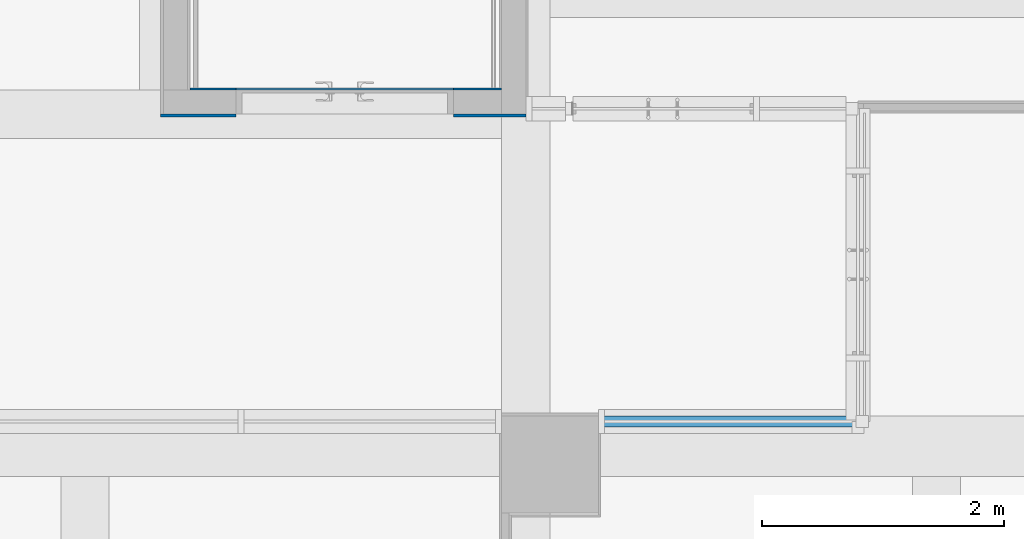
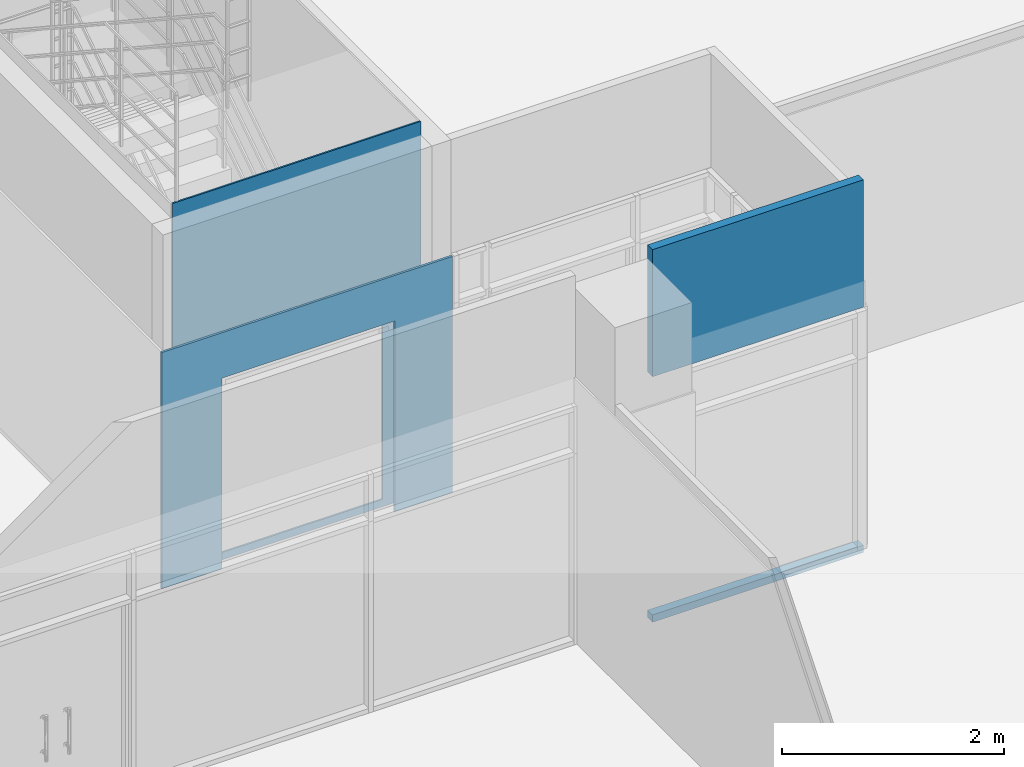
# One storey, part 46 of 81: 3 walls, 3 openings.
"""IFC2X3 building model written with IfcOpenShell, lengths in millimetres."""

from ifc_helpers import new_model, entity, si_unit, converted_unit, derived_unit, direction, frame, frame_2d, origin, place, context, subcontext, project, spatial, rectangle, extrude, material, layer, layer_set, layer_usage, type_object, element, save


model = new_model("IFC2X3")

# Units and contexts
model_context = context("Model", 3, precision=0.01, world=origin(), true_north=direction((6.123031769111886e-17, 1.0)))
body_context = subcontext(model_context, "Body", "Model", "MODEL_VIEW")
ifc_project = project(units=[si_unit("LENGTHUNIT", "METRE", prefix="MILLI"), si_unit("AREAUNIT", "SQUARE_METRE"), si_unit("VOLUMEUNIT", "CUBIC_METRE"), converted_unit("PLANEANGLEUNIT", "DEGREE", entity("IfcRatioMeasure", 0.017453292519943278), si_unit("PLANEANGLEUNIT", "RADIAN"), dimensions=[0, 0, 0, 0, 0, 0, 0]), si_unit("MASSUNIT", "GRAM", prefix="KILO"), derived_unit("MASSDENSITYUNIT", [(si_unit("MASSUNIT", "GRAM", prefix="KILO"), 1), (si_unit("LENGTHUNIT", "METRE"), -3)]), derived_unit("MOMENTOFINERTIAUNIT", [(si_unit("LENGTHUNIT", "METRE"), 4)]), si_unit("TIMEUNIT", "SECOND"), si_unit("FREQUENCYUNIT", "HERTZ"), si_unit("THERMODYNAMICTEMPERATUREUNIT", "DEGREE_CELSIUS"), derived_unit("THERMALTRANSMITTANCEUNIT", [(si_unit("MASSUNIT", "GRAM", prefix="KILO"), 1), (si_unit("THERMODYNAMICTEMPERATUREUNIT", "KELVIN"), -1), (si_unit("TIMEUNIT", "SECOND"), -3)]), derived_unit("VOLUMETRICFLOWRATEUNIT", [(si_unit("LENGTHUNIT", "METRE"), 3), (si_unit("TIMEUNIT", "SECOND"), -1)]), derived_unit("MASSFLOWRATEUNIT", [(si_unit("MASSUNIT", "GRAM", prefix="KILO"), 1), (si_unit("TIMEUNIT", "SECOND"), -1)]), derived_unit("ROTATIONALFREQUENCYUNIT", [(si_unit("TIMEUNIT", "SECOND"), -1)]), si_unit("ELECTRICCURRENTUNIT", "AMPERE"), si_unit("ELECTRICVOLTAGEUNIT", "VOLT"), si_unit("POWERUNIT", "WATT"), si_unit("FORCEUNIT", "NEWTON", prefix="KILO"), si_unit("ILLUMINANCEUNIT", "LUX"), si_unit("LUMINOUSFLUXUNIT", "LUMEN"), si_unit("LUMINOUSINTENSITYUNIT", "CANDELA"), derived_unit("USERDEFINED", [(si_unit("MASSUNIT", "GRAM", prefix="KILO"), -1), (si_unit("LENGTHUNIT", "METRE"), -2), (si_unit("TIMEUNIT", "SECOND"), 3), (si_unit("LUMINOUSFLUXUNIT", "LUMEN"), 1)]), derived_unit("SOUNDPOWERUNIT", [(si_unit("MASSUNIT", "GRAM", prefix="KILO"), 1), (si_unit("LENGTHUNIT", "METRE"), 2), (si_unit("TIMEUNIT", "SECOND"), -3)]), derived_unit("SOUNDPRESSUREUNIT", [(si_unit("MASSUNIT", "GRAM", prefix="KILO"), 1), (si_unit("LENGTHUNIT", "METRE"), -1), (si_unit("TIMEUNIT", "SECOND"), -2)]), derived_unit("LINEARVELOCITYUNIT", [(si_unit("LENGTHUNIT", "METRE"), 1), (si_unit("TIMEUNIT", "SECOND"), -1)]), si_unit("PRESSUREUNIT", "PASCAL"), derived_unit("USERDEFINED", [(si_unit("LENGTHUNIT", "METRE"), -2), (si_unit("MASSUNIT", "GRAM", prefix="KILO"), 1), (si_unit("TIMEUNIT", "SECOND"), -2)]), derived_unit("LINEARFORCEUNIT", [(si_unit("MASSUNIT", "GRAM", prefix="KILO"), 1), (si_unit("LENGTHUNIT", "METRE"), 1), (si_unit("TIMEUNIT", "SECOND"), -2), (si_unit("LENGTHUNIT", "METRE"), -1)]), derived_unit("PLANARFORCEUNIT", [(si_unit("MASSUNIT", "GRAM", prefix="KILO"), 1), (si_unit("LENGTHUNIT", "METRE"), 1), (si_unit("TIMEUNIT", "SECOND"), -2), (si_unit("LENGTHUNIT", "METRE"), -2)])], contexts=[model_context])

# Site, building, storey
site_placement = place(None, frame((-14167.972527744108, -657.2125860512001, 0.0)))
site = spatial("IfcSite", under=ifc_project, at=site_placement, Name="Default", CompositionType="ELEMENT")
building_placement = place(site_placement, origin())
building = spatial("IfcBuilding", under=site, at=building_placement, Name="Sample Building", CompositionType="ELEMENT")
storey_placement = place(building_placement, frame((0.0, 0.0, 13400.0)))
storey = spatial("IfcBuildingStorey", under=building, at=storey_placement, Name="지상 4층", CompositionType="ELEMENT", Elevation=13400.00000000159)

# Wall, opening
ifc_material_1 = material(Name="KBIMS-시멘트 벽돌")
ifc_layer_1 = layer(ifc_material_1, 90.0)
ifc_layer_set_1 = layer_set([ifc_layer_1], Name="기본 벽:WA211-시멘트벽돌(일반) 벽 (0.5B) 90mm")
ifc_layer_usage_1 = layer_usage(ifc_layer_set_1, "AXIS2", "POSITIVE", -45.0)
wall_type_1 = type_object("IfcWallType", Name="기본 벽:WA211-시멘트벽돌(일반) 벽 (0.5B) 90mm", PredefinedType="STANDARD", material=ifc_layer_set_1)
wall_1_placement = place(storey_placement, frame((41567.955135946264, 13012.212383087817, 0.0)))
wall_1 = element("IfcWallStandardCase", 1, at=wall_1_placement, inside=storey, type_object=wall_type_1, material=ifc_layer_usage_1, Name="기본 벽:WA211-시멘트벽돌(일반) 벽 (0.5B) 90mm", ObjectType="기본 벽:WA211-시멘트벽돌(일반) 벽 (0.5B) 90mm", context=body_context, shape_type="SweptSolid", body=[
    extrude(rectangle(XDim=2195.0173551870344, YDim=89.99999999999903, at=frame_2d((1097.5086775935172, 9.627854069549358e-13), x_axis=(-1.0, 0.0))), origin(), (0.0, 0.0, 1.0), 4100.0000000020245),
])
opening_1_placement = place(wall_1_placement, origin())
element("IfcOpeningElement", 2, at=opening_1_placement, cuts=wall_1, Name="기본 벽:WA211-시멘트벽돌(일반) 벽 (0.5B) 90mm", ObjectType="Opening", context=body_context, shape_type="SweptSolid", body=[
    extrude(rectangle(XDim=2619.9999999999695, YDim=2235.000000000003, at=frame_2d((1.1368683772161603e-12, 4.320099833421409e-12), x_axis=(1.0, 0.0))), frame((1117.5173551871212, -197.39999999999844, 1390.0), z_axis=(0.0, 1.0, 0.0), x_axis=(0.0, 0.0, 1.0)), (0.0, 0.0, 1.0), 394.79999999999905),
])

ifc_material_2 = material(Name="WA611-수성페인트 (내부) 벽 (3회)")
ifc_layer_2 = layer(ifc_material_2, 1.0)
ifc_material_3 = material(Name="WA551-시멘트모르타르 (내부) 벽 18mm")
ifc_layer_3 = layer(ifc_material_3, 16.0)
ifc_material_4 = material(Name="WA555-콘크리트면정리 벽 (내부)")
ifc_layer_4 = layer(ifc_material_4, 1.0)
ifc_layer_set_2 = layer_set([ifc_layer_2, ifc_layer_3, ifc_layer_4], Name="기본 벽:A1-32-06A-콘크리트면정리, 시멘트모르타르(미장용), 수성페인트(내부) (18mm)")
ifc_layer_usage_2 = layer_usage(ifc_layer_set_2, "AXIS2", "POSITIVE", -9.000000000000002)
wall_type_2 = type_object("IfcWallType", Name="기본 벽:A1-32-06A-콘크리트면정리, 시멘트모르타르(미장용), 수성페인트(내부) (18mm)", PredefinedType="STANDARD", material=ifc_layer_set_2)
wall_2_placement = place(storey_placement, frame((40767.97248982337, 15766.211886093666, 0.0), z_axis=(0.0, 0.0, 1.0), x_axis=(-1.0, 0.0, 0.0)))
wall_2 = element("IfcWallStandardCase", 3, at=wall_2_placement, inside=storey, type_object=wall_type_2, material=ifc_layer_usage_2, Name="기본 벽:A1-32-06A-콘크리트면정리, 시멘트모르타르(미장용), 수성페인트(내부) (18mm)", ObjectType="기본 벽:A1-32-06A-콘크리트면정리, 시멘트모르타르(미장용), 수성페인트(내부) (18mm)", context=body_context, shape_type="SweptSolid", body=[
    extrude(rectangle(XDim=2582.0086732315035, YDim=18.000000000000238, at=frame_2d((1291.0043366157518, 0.0), x_axis=(-1.0, 0.0))), origin(), (0.0, 0.0, 1.0), 4099.999999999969),
])
opening_2_placement = place(wall_2_placement, origin())
element("IfcOpeningElement", 4, at=opening_2_placement, cuts=wall_2, Name="기본 벽:A1-32-06A-콘크리트면정리, 시멘트모르타르(미장용), 수성페인트(내부) (18mm)", ObjectType="Opening", context=body_context, shape_type="SweptSolid", body=[
    extrude(rectangle(XDim=2099.9999999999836, YDim=1800.0000000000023, at=frame_2d((1.0231815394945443e-12, -2.1600499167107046e-12), x_axis=(1.0, 0.0))), frame((1300.0086916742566, -1315.0004090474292, 1130.0), z_axis=(0.0, 1.0, 0.0), x_axis=(0.0, 0.0, 1.0)), (0.0, 0.0, 1.0), 3048.0),
])

ifc_layer_5 = layer(ifc_material_2, 1.0)
ifc_material_5 = material(Name="WA551-시멘트모르타르 (내부) 벽 24mm")
ifc_layer_6 = layer(ifc_material_5, 21.0)
ifc_material_6 = material(Name="WA961-바닥방수 연장")
ifc_layer_7 = layer(ifc_material_6, 1.0)
ifc_layer_8 = layer(ifc_material_4, 1.0)
ifc_layer_set_3 = layer_set([ifc_layer_5, ifc_layer_6, ifc_layer_7, ifc_layer_8], Name="기본 벽:A1-32-07A-콘크리트면정리, 바닥방수연장, 시멘트모르타르(미장용), 수성페인트(내부) (24mm)")
ifc_layer_usage_3 = layer_usage(ifc_layer_set_3, "AXIS2", "NEGATIVE", 12.000000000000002)
wall_type_3 = type_object("IfcWallType", Name="기본 벽:A1-32-07A-콘크리트면정리, 바닥방수연장, 시멘트모르타르(미장용), 수성페인트(내부) (24mm)", PredefinedType="STANDARD", material=ifc_layer_set_3)
wall_3_placement = place(storey_placement, frame((40967.9638165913, 15545.177268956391, 80.0), z_axis=(0.0, 0.0, 1.0), x_axis=(-1.0, 0.0, 0.0)))
wall_3 = element("IfcWallStandardCase", 5, at=wall_3_placement, inside=storey, type_object=wall_type_3, material=ifc_layer_usage_3, Name="기본 벽:A1-32-07A-콘크리트면정리, 바닥방수연장, 시멘트모르타르(미장용), 수성페인트(내부) (24mm)", ObjectType="기본 벽:A1-32-07A-콘크리트면정리, 바닥방수연장, 시멘트모르타르(미장용), 수성페인트(내부) (24mm)", context=body_context, shape_type="SweptSolid", body=[
    extrude(rectangle(XDim=3023.999999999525, YDim=24.00000000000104, at=frame_2d((1511.9999999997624, -1.0480505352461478e-12), x_axis=(1.0, 0.0))), origin(), (0.0, 0.0, 1.0), 2600.0000000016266),
])
opening_3_placement = place(wall_3_placement, origin())
element("IfcOpeningElement", 6, at=opening_3_placement, cuts=wall_3, Name="기본 벽:A1-32-07A-콘크리트면정리, 바닥방수연장, 시멘트모르타르(미장용), 수성페인트(내부) (24mm)", ObjectType="Opening", context=body_context, shape_type="SweptSolid", body=[
    extrude(rectangle(XDim=2099.9999999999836, YDim=1800.0000000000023, at=frame_2d((1.0231815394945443e-12, -2.1600499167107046e-12), x_axis=(1.0, 0.0))), frame((1500.0000184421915, -1536.0350261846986, 1050.0), z_axis=(0.0, 1.0, 0.0), x_axis=(0.0, 0.0, 1.0)), (0.0, 0.0, 1.0), 3048.0),
])

save(model, "model.ifc")
